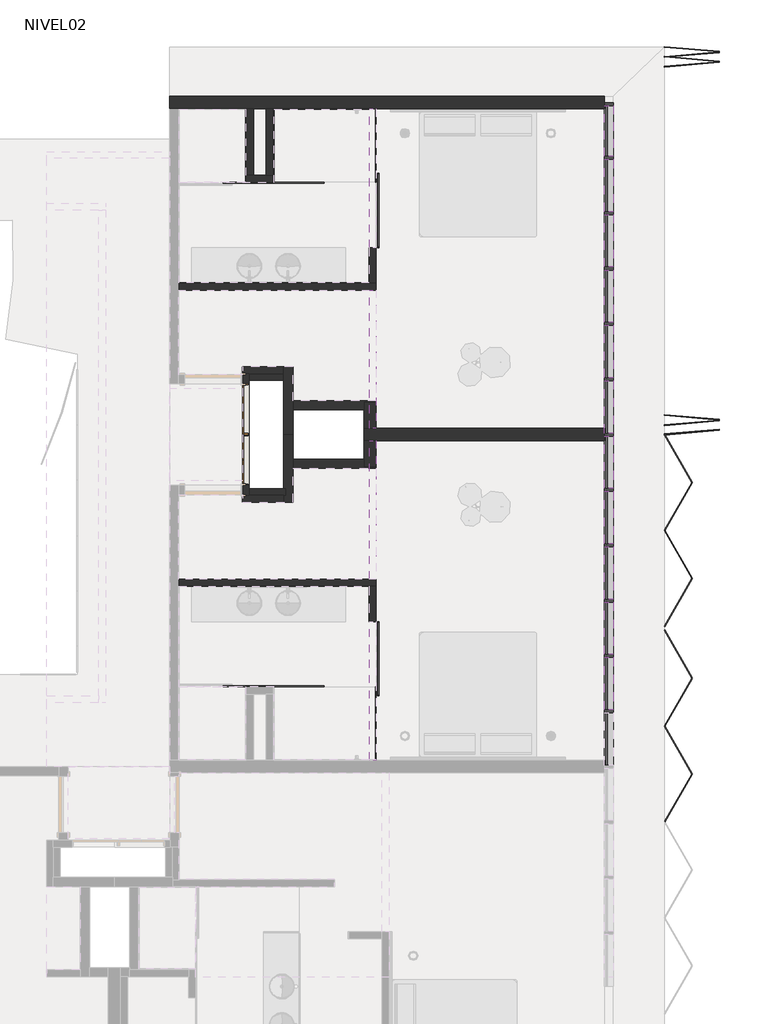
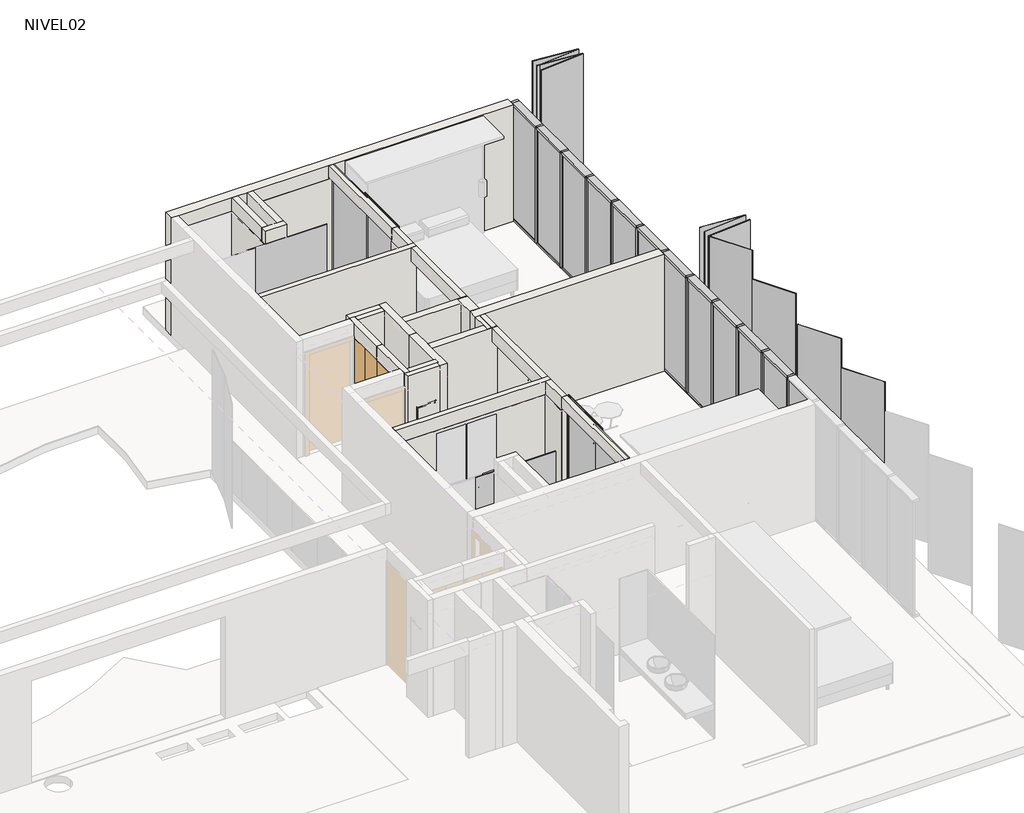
# One storey, part 7 of 9: 35 members, 32 walls, 20 plates, 2 doors.
"""IFC4 building model written with IfcOpenShell, lengths in millimetres."""

from ifc_helpers import new_model, si_unit, frame, origin, place, context, project, spatial, polyline, outline, extrude, faceted_brep, transform, mapped, element, save
from components import puerta_closet_shaft_82_5_x_224cm_10222c01, puerta_closet_shaft_82_5_x_224cm_6ba6ac82, rectangular_mullion_50_x_150mm_8dc60d6a, rectangular_mullion_50_x_150mm_324a6438, rectangular_mullion_50_x_150mm_33c2bde1, rectangular_mullion_50_x_150mm_da4cfd0d, folding_hd_folding_hd_85_1d048bdd, plate_ff72692a, panel_corredera_cr_panel_corredera_8db39db7, panel_corredera_cr_panel_corredera_0b5135b5, system_panel_cr_shower_c0953742, system_panel_cr_shower_402713e2, system_panel_cr_shower_685ec66b, system_panel_cr_shower_d0c7b907, system_panel_glazed_6ccc6dc1, system_panel_glazed_38744f95

model = new_model("IFC4")

# Units and contexts
model_context = context("Model", 3, world=origin())
ifc_project = project(units=[si_unit("LENGTHUNIT", "METRE", prefix="MILLI")], contexts=[model_context])

# Site, building, storey
site = spatial("IfcSite", under=ifc_project)
building = spatial("IfcBuilding", under=site)
storey = spatial("IfcBuildingStorey", under=building, Name="NIVEL02", Elevation=2500.0)

# Doors
placement = place(None, origin())
puerta_closet_shaft_82_5_x_224cm_shape = puerta_closet_shaft_82_5_x_224cm_10222c01(model_context)
element("IfcDoor", 1, ObjectType="PUERTA CLOSET SHAFT : 82.5 x 224cm", at=placement, inside=storey, context=model_context, shape_type="MappedRepresentation", body=[
    mapped(puerta_closet_shaft_82_5_x_224cm_shape, transform((361.4065252, 5862.9454949, 2500.0), x_axis=(0.0, 1.0, 0.0), y_axis=(-1.0, 0.0, 0.0), z_axis=(0.0, 0.0, 1.0))),
])
puerta_closet_shaft_82_5_x_224cm_2_shape = puerta_closet_shaft_82_5_x_224cm_6ba6ac82(model_context)
element("IfcDoor", 2, ObjectType="PUERTA CLOSET SHAFT : 82.5 x 224cm", at=placement, inside=storey, context=model_context, shape_type="MappedRepresentation", body=[
    mapped(puerta_closet_shaft_82_5_x_224cm_2_shape, transform((361.4065252, 4404.8823532, 2500.0), x_axis=(0.0, -1.0, 0.0), y_axis=(1.0, 0.0, 0.0), z_axis=(0.0, 0.0, 1.0))),
])

# Members
rectangular_mullion_50_x_150mm_shape = rectangular_mullion_50_x_150mm_8dc60d6a(model_context)
element("IfcMember", 3, ObjectType="Rectangular Mullion : 50 x 150mm", at=placement, inside=storey, context=model_context, shape_type="MappedRepresentation", body=[
    mapped(rectangular_mullion_50_x_150mm_shape, transform((6266.4065252, 9658.9139237, 5050.0), x_axis=(0.0, 0.0, 1.0), y_axis=(-1.0, 0.0, 0.0), z_axis=(0.0, -1.0, 0.0))),
])
rectangular_mullion_50_x_150mm_2_shape = rectangular_mullion_50_x_150mm_324a6438(model_context)
element("IfcMember", 4, ObjectType="Rectangular Mullion : 50 x 150mm", at=placement, inside=storey, context=model_context, shape_type="MappedRepresentation", body=[
    mapped(rectangular_mullion_50_x_150mm_2_shape, transform((6266.4065252, 8758.9139237, 5050.0), x_axis=(0.0, 0.0, 1.0), y_axis=(-1.0, 0.0, 0.0), z_axis=(0.0, -1.0, 0.0))),
])
element("IfcMember", 5, ObjectType="Rectangular Mullion : 50 x 150mm", at=placement, inside=storey, context=model_context, shape_type="MappedRepresentation", body=[
    mapped(rectangular_mullion_50_x_150mm_2_shape, transform((6266.4065252, 7858.9139237, 5050.0), x_axis=(0.0, 0.0, 1.0), y_axis=(-1.0, 0.0, 0.0), z_axis=(0.0, -1.0, 0.0))),
])
element("IfcMember", 6, ObjectType="Rectangular Mullion : 50 x 150mm", at=placement, inside=storey, context=model_context, shape_type="MappedRepresentation", body=[
    mapped(rectangular_mullion_50_x_150mm_2_shape, transform((6266.4065252, 6958.9139237, 5050.0), x_axis=(0.0, 0.0, 1.0), y_axis=(-1.0, 0.0, 0.0), z_axis=(0.0, -1.0, 0.0))),
])
element("IfcMember", 7, ObjectType="Rectangular Mullion : 50 x 150mm", at=placement, inside=storey, context=model_context, shape_type="MappedRepresentation", body=[
    mapped(rectangular_mullion_50_x_150mm_2_shape, transform((6266.4065252, 6058.9139237, 5050.0), x_axis=(0.0, 0.0, 1.0), y_axis=(-1.0, 0.0, 0.0), z_axis=(0.0, -1.0, 0.0))),
])
element("IfcMember", 8, ObjectType="Rectangular Mullion : 50 x 150mm", at=placement, inside=storey, context=model_context, shape_type="MappedRepresentation", body=[
    mapped(rectangular_mullion_50_x_150mm_2_shape, transform((6266.4065252, 5158.9139237, 5050.0), x_axis=(0.0, 0.0, 1.0), y_axis=(-1.0, 0.0, 0.0), z_axis=(0.0, -1.0, 0.0))),
])
element("IfcMember", 9, ObjectType="Rectangular Mullion : 50 x 150mm", at=placement, inside=storey, context=model_context, shape_type="MappedRepresentation", body=[
    mapped(rectangular_mullion_50_x_150mm_2_shape, transform((6266.4065252, 4258.9139237, 5050.0), x_axis=(0.0, 0.0, 1.0), y_axis=(-1.0, 0.0, 0.0), z_axis=(0.0, -1.0, 0.0))),
])
element("IfcMember", 10, ObjectType="Rectangular Mullion : 50 x 150mm", at=placement, inside=storey, context=model_context, shape_type="MappedRepresentation", body=[
    mapped(rectangular_mullion_50_x_150mm_2_shape, transform((6266.4065252, 3358.9139237, 5050.0), x_axis=(0.0, 0.0, 1.0), y_axis=(-1.0, 0.0, 0.0), z_axis=(0.0, -1.0, 0.0))),
])
element("IfcMember", 11, ObjectType="Rectangular Mullion : 50 x 150mm", at=placement, inside=storey, context=model_context, shape_type="MappedRepresentation", body=[
    mapped(rectangular_mullion_50_x_150mm_2_shape, transform((6266.4065252, 2458.9139237, 5050.0), x_axis=(0.0, 0.0, 1.0), y_axis=(-1.0, 0.0, 0.0), z_axis=(0.0, -1.0, 0.0))),
])
element("IfcMember", 12, ObjectType="Rectangular Mullion : 50 x 150mm", at=placement, inside=storey, context=model_context, shape_type="MappedRepresentation", body=[
    mapped(rectangular_mullion_50_x_150mm_2_shape, transform((6266.4065252, 1558.9139237, 5050.0), x_axis=(0.0, 0.0, 1.0), y_axis=(-1.0, 0.0, 0.0), z_axis=(0.0, -1.0, 0.0))),
])
element("IfcMember", 13, ObjectType="Rectangular Mullion : 50 x 150mm", at=placement, inside=storey, context=model_context, shape_type="MappedRepresentation", body=[
    mapped(rectangular_mullion_50_x_150mm_2_shape, transform((6266.4065252, 658.9139237, 5050.0), x_axis=(0.0, 0.0, 1.0), y_axis=(-1.0, 0.0, 0.0), z_axis=(0.0, -1.0, 0.0))),
])
element("IfcMember", 14, ObjectType="Rectangular Mullion : 50 x 150mm", at=placement, inside=storey, context=model_context, shape_type="MappedRepresentation", body=[
    mapped(rectangular_mullion_50_x_150mm_shape, transform((6266.4065252, 10483.9139241, 2480.0), x_axis=(0.0, 0.0, -1.0), y_axis=(-1.0, 0.0, 0.0), z_axis=(0.0, 1.0, 0.0))),
])
element("IfcMember", 15, ObjectType="Rectangular Mullion : 50 x 150mm", at=placement, inside=storey, context=model_context, shape_type="MappedRepresentation", body=[
    mapped(rectangular_mullion_50_x_150mm_2_shape, transform((6266.4065252, 9608.9139237, 2480.0), x_axis=(0.0, 0.0, -1.0), y_axis=(-1.0, 0.0, 0.0), z_axis=(0.0, 1.0, 0.0))),
])
element("IfcMember", 16, ObjectType="Rectangular Mullion : 50 x 150mm", at=placement, inside=storey, context=model_context, shape_type="MappedRepresentation", body=[
    mapped(rectangular_mullion_50_x_150mm_2_shape, transform((6266.4065252, 8708.9139237, 2480.0), x_axis=(0.0, 0.0, -1.0), y_axis=(-1.0, 0.0, 0.0), z_axis=(0.0, 1.0, 0.0))),
])
element("IfcMember", 17, ObjectType="Rectangular Mullion : 50 x 150mm", at=placement, inside=storey, context=model_context, shape_type="MappedRepresentation", body=[
    mapped(rectangular_mullion_50_x_150mm_2_shape, transform((6266.4065252, 7808.9139237, 2480.0), x_axis=(0.0, 0.0, -1.0), y_axis=(-1.0, 0.0, 0.0), z_axis=(0.0, 1.0, 0.0))),
])
element("IfcMember", 18, ObjectType="Rectangular Mullion : 50 x 150mm", at=placement, inside=storey, context=model_context, shape_type="MappedRepresentation", body=[
    mapped(rectangular_mullion_50_x_150mm_2_shape, transform((6266.4065252, 6908.9139237, 2480.0), x_axis=(0.0, 0.0, -1.0), y_axis=(-1.0, 0.0, 0.0), z_axis=(0.0, 1.0, 0.0))),
])
element("IfcMember", 19, ObjectType="Rectangular Mullion : 50 x 150mm", at=placement, inside=storey, context=model_context, shape_type="MappedRepresentation", body=[
    mapped(rectangular_mullion_50_x_150mm_2_shape, transform((6266.4065252, 6008.9139237, 2480.0), x_axis=(0.0, 0.0, -1.0), y_axis=(-1.0, 0.0, 0.0), z_axis=(0.0, 1.0, 0.0))),
])
element("IfcMember", 20, ObjectType="Rectangular Mullion : 50 x 150mm", at=placement, inside=storey, context=model_context, shape_type="MappedRepresentation", body=[
    mapped(rectangular_mullion_50_x_150mm_2_shape, transform((6266.4065252, 5108.9139237, 2480.0), x_axis=(0.0, 0.0, -1.0), y_axis=(-1.0, 0.0, 0.0), z_axis=(0.0, 1.0, 0.0))),
])
element("IfcMember", 21, ObjectType="Rectangular Mullion : 50 x 150mm", at=placement, inside=storey, context=model_context, shape_type="MappedRepresentation", body=[
    mapped(rectangular_mullion_50_x_150mm_2_shape, transform((6266.4065252, 4208.9139237, 2480.0), x_axis=(0.0, 0.0, -1.0), y_axis=(-1.0, 0.0, 0.0), z_axis=(0.0, 1.0, 0.0))),
])
element("IfcMember", 22, ObjectType="Rectangular Mullion : 50 x 150mm", at=placement, inside=storey, context=model_context, shape_type="MappedRepresentation", body=[
    mapped(rectangular_mullion_50_x_150mm_2_shape, transform((6266.4065252, 3308.9139237, 2480.0), x_axis=(0.0, 0.0, -1.0), y_axis=(-1.0, 0.0, 0.0), z_axis=(0.0, 1.0, 0.0))),
])
element("IfcMember", 23, ObjectType="Rectangular Mullion : 50 x 150mm", at=placement, inside=storey, context=model_context, shape_type="MappedRepresentation", body=[
    mapped(rectangular_mullion_50_x_150mm_2_shape, transform((6266.4065252, 2408.9139237, 2480.0), x_axis=(0.0, 0.0, -1.0), y_axis=(-1.0, 0.0, 0.0), z_axis=(0.0, 1.0, 0.0))),
])
element("IfcMember", 24, ObjectType="Rectangular Mullion : 50 x 150mm", at=placement, inside=storey, context=model_context, shape_type="MappedRepresentation", body=[
    mapped(rectangular_mullion_50_x_150mm_2_shape, transform((6266.4065252, 1508.9139237, 2480.0), x_axis=(0.0, 0.0, -1.0), y_axis=(-1.0, 0.0, 0.0), z_axis=(0.0, 1.0, 0.0))),
])
element("IfcMember", 25, ObjectType="Rectangular Mullion : 50 x 150mm", at=placement, inside=storey, context=model_context, shape_type="MappedRepresentation", body=[
    mapped(rectangular_mullion_50_x_150mm_2_shape, transform((6266.4065252, 608.9139237, 2480.0), x_axis=(0.0, 0.0, -1.0), y_axis=(-1.0, 0.0, 0.0), z_axis=(0.0, 1.0, 0.0))),
])
rectangular_mullion_50_x_150mm_3_shape = rectangular_mullion_50_x_150mm_33c2bde1(model_context)
element("IfcMember", 26, ObjectType="Rectangular Mullion : 50 x 150mm", at=placement, inside=storey, context=model_context, shape_type="MappedRepresentation", body=[
    mapped(rectangular_mullion_50_x_150mm_3_shape, transform((6266.4065252, 9633.9139237, 2480.0), x_axis=(0.0, -1.0, 0.0), y_axis=(-1.0, 0.0, 0.0), z_axis=(0.0, 0.0, -1.0))),
])
element("IfcMember", 27, ObjectType="Rectangular Mullion : 50 x 150mm", at=placement, inside=storey, context=model_context, shape_type="MappedRepresentation", body=[
    mapped(rectangular_mullion_50_x_150mm_3_shape, transform((6266.4065252, 8733.9139237, 2480.0), x_axis=(0.0, -1.0, 0.0), y_axis=(-1.0, 0.0, 0.0), z_axis=(0.0, 0.0, -1.0))),
])
element("IfcMember", 28, ObjectType="Rectangular Mullion : 50 x 150mm", at=placement, inside=storey, context=model_context, shape_type="MappedRepresentation", body=[
    mapped(rectangular_mullion_50_x_150mm_3_shape, transform((6266.4065252, 7833.9139237, 2480.0), x_axis=(0.0, -1.0, 0.0), y_axis=(-1.0, 0.0, 0.0), z_axis=(0.0, 0.0, -1.0))),
])
element("IfcMember", 29, ObjectType="Rectangular Mullion : 50 x 150mm", at=placement, inside=storey, context=model_context, shape_type="MappedRepresentation", body=[
    mapped(rectangular_mullion_50_x_150mm_3_shape, transform((6266.4065252, 6933.9139237, 2480.0), x_axis=(0.0, -1.0, 0.0), y_axis=(-1.0, 0.0, 0.0), z_axis=(0.0, 0.0, -1.0))),
])
element("IfcMember", 30, ObjectType="Rectangular Mullion : 50 x 150mm", at=placement, inside=storey, context=model_context, shape_type="MappedRepresentation", body=[
    mapped(rectangular_mullion_50_x_150mm_3_shape, transform((6266.4065252, 6033.9139237, 2480.0), x_axis=(0.0, -1.0, 0.0), y_axis=(-1.0, 0.0, 0.0), z_axis=(0.0, 0.0, -1.0))),
])
element("IfcMember", 31, ObjectType="Rectangular Mullion : 50 x 150mm", at=placement, inside=storey, context=model_context, shape_type="MappedRepresentation", body=[
    mapped(rectangular_mullion_50_x_150mm_3_shape, transform((6266.4065252, 5133.9139237, 2480.0), x_axis=(0.0, -1.0, 0.0), y_axis=(-1.0, 0.0, 0.0), z_axis=(0.0, 0.0, -1.0))),
])
element("IfcMember", 32, ObjectType="Rectangular Mullion : 50 x 150mm", at=placement, inside=storey, context=model_context, shape_type="MappedRepresentation", body=[
    mapped(rectangular_mullion_50_x_150mm_3_shape, transform((6266.4065252, 4233.9139237, 2480.0), x_axis=(0.0, -1.0, 0.0), y_axis=(-1.0, 0.0, 0.0), z_axis=(0.0, 0.0, -1.0))),
])
element("IfcMember", 33, ObjectType="Rectangular Mullion : 50 x 150mm", at=placement, inside=storey, context=model_context, shape_type="MappedRepresentation", body=[
    mapped(rectangular_mullion_50_x_150mm_3_shape, transform((6266.4065252, 3333.9139237, 2480.0), x_axis=(0.0, -1.0, 0.0), y_axis=(-1.0, 0.0, 0.0), z_axis=(0.0, 0.0, -1.0))),
])
element("IfcMember", 34, ObjectType="Rectangular Mullion : 50 x 150mm", at=placement, inside=storey, context=model_context, shape_type="MappedRepresentation", body=[
    mapped(rectangular_mullion_50_x_150mm_3_shape, transform((6266.4065252, 2433.9139237, 2480.0), x_axis=(0.0, -1.0, 0.0), y_axis=(-1.0, 0.0, 0.0), z_axis=(0.0, 0.0, -1.0))),
])
element("IfcMember", 35, ObjectType="Rectangular Mullion : 50 x 150mm", at=placement, inside=storey, context=model_context, shape_type="MappedRepresentation", body=[
    mapped(rectangular_mullion_50_x_150mm_3_shape, transform((6266.4065252, 1533.9139237, 2480.0), x_axis=(0.0, -1.0, 0.0), y_axis=(-1.0, 0.0, 0.0), z_axis=(0.0, 0.0, -1.0))),
])
element("IfcMember", 36, ObjectType="Rectangular Mullion : 50 x 150mm", at=placement, inside=storey, context=model_context, shape_type="MappedRepresentation", body=[
    mapped(rectangular_mullion_50_x_150mm_3_shape, transform((6266.4065252, 633.9139237, 2480.0), x_axis=(0.0, -1.0, 0.0), y_axis=(-1.0, 0.0, 0.0), z_axis=(0.0, 0.0, -1.0))),
])
rectangular_mullion_50_x_150mm_4_shape = rectangular_mullion_50_x_150mm_da4cfd0d(model_context)
element("IfcMember", 37, ObjectType="Rectangular Mullion : 50 x 150mm", at=placement, inside=storey, context=model_context, shape_type="MappedRepresentation", body=[
    mapped(rectangular_mullion_50_x_150mm_4_shape, transform((6266.4065252, 10533.9139241, 5050.0), x_axis=(0.0, 1.0, 0.0), y_axis=(-1.0, 0.0, 0.0), z_axis=(0.0, 0.0, 1.0))),
])

# Plates
folding_hd_folding_hd_85_shape = folding_hd_folding_hd_85_1d048bdd(model_context)
element("IfcPlate", 38, ObjectType="FOLDING HD : FOLDING HD 85", at=placement, inside=storey, context=model_context, shape_type="MappedRepresentation", body=[
    mapped(folding_hd_folding_hd_85_shape, transform((7166.4065252, 8283.9139241, 2480.0), x_axis=(0.0, -1.0, 0.0), y_axis=(1.0, 0.0, 0.0), z_axis=(0.0, 0.0, 1.0))),
])
plate_shape = plate_ff72692a(model_context)
element("IfcPlate", 39, ObjectType="FOLDING HD : FOLDING HD-90_30\"", at=placement, inside=storey, context=model_context, shape_type="MappedRepresentation", body=[
    mapped(plate_shape, transform((7166.4065252, 1983.9139241, 2480.0), x_axis=(0.0, -1.0, 0.0), y_axis=(1.0, 0.0, 0.0), z_axis=(0.0, 0.0, 1.0))),
])
panel_corredera_cr_panel_corredera_shape = panel_corredera_cr_panel_corredera_8db39db7(model_context)
element("IfcPlate", 40, ObjectType="PANEL CORREDERA : CR_PANEL CORREDERA", at=placement, inside=storey, context=model_context, shape_type="MappedRepresentation", body=[
    mapped(panel_corredera_cr_panel_corredera_shape, transform((2481.4065252, 1563.9139241, 2500.0), x_axis=(0.0, -1.0, 0.0), y_axis=(1.0, 0.0, 0.0), z_axis=(0.0, 0.0, 1.0))),
])
panel_corredera_cr_panel_corredera_2_shape = panel_corredera_cr_panel_corredera_0b5135b5(model_context)
element("IfcPlate", 41, ObjectType="PANEL CORREDERA : CR_PANEL CORREDERA", at=placement, inside=storey, context=model_context, shape_type="MappedRepresentation", body=[
    mapped(panel_corredera_cr_panel_corredera_2_shape, transform((2481.4065252, 8703.9139241, 2500.0), x_axis=(0.0, 1.0, 0.0), y_axis=(-1.0, 0.0, 0.0), z_axis=(0.0, 0.0, 1.0))),
])
system_panel_cr_shower_shape = system_panel_cr_shower_c0953742(model_context)
element("IfcPlate", 42, ObjectType="System Panel : CR-SHOWER", at=placement, inside=storey, context=model_context, shape_type="MappedRepresentation", body=[
    mapped(system_panel_cr_shower_shape, transform((811.7398585, 9233.9139241, 2500.0), x_axis=(-1.0, 0.0, 0.0), y_axis=(0.0, -1.0, 0.0), z_axis=(0.0, 0.0, 1.0))),
])
system_panel_cr_shower_2_shape = system_panel_cr_shower_402713e2(model_context)
element("IfcPlate", 43, ObjectType="System Panel : CR-SHOWER", at=placement, inside=storey, context=model_context, shape_type="MappedRepresentation", body=[
    mapped(system_panel_cr_shower_2_shape, transform((811.7398585, 1033.9139241, 2500.0), x_axis=(-1.0, 0.0, 0.0), y_axis=(0.0, -1.0, 0.0), z_axis=(0.0, 0.0, 1.0))),
])
system_panel_cr_shower_3_shape = system_panel_cr_shower_685ec66b(model_context)
element("IfcPlate", 44, ObjectType="System Panel : CR-SHOWER", at=placement, inside=storey, context=model_context, shape_type="MappedRepresentation", body=[
    mapped(system_panel_cr_shower_3_shape, transform((2481.4065252, 433.9139241, 2500.0), x_axis=(0.0, -1.0, 0.0), y_axis=(1.0, 0.0, 0.0), z_axis=(0.0, 0.0, 1.0))),
])
system_panel_cr_shower_4_shape = system_panel_cr_shower_d0c7b907(model_context)
element("IfcPlate", 45, ObjectType="System Panel : CR-SHOWER", at=placement, inside=storey, context=model_context, shape_type="MappedRepresentation", body=[
    mapped(system_panel_cr_shower_4_shape, transform((2481.4065252, 9833.9139241, 2500.0), x_axis=(0.0, 1.0, 0.0), y_axis=(-1.0, 0.0, 0.0), z_axis=(0.0, 0.0, 1.0))),
])
system_panel_glazed_shape = system_panel_glazed_6ccc6dc1(model_context)
element("IfcPlate", 46, ObjectType="System Panel : Glazed", at=placement, inside=storey, context=model_context, shape_type="MappedRepresentation", body=[
    mapped(system_panel_glazed_shape, transform((6266.4065252, 9183.9139237, 2530.0), x_axis=(0.0, -1.0, 0.0), y_axis=(1.0, 0.0, 0.0), z_axis=(0.0, 0.0, 1.0))),
])
element("IfcPlate", 47, ObjectType="System Panel : Glazed", at=placement, inside=storey, context=model_context, shape_type="MappedRepresentation", body=[
    mapped(system_panel_glazed_shape, transform((6266.4065252, 8283.9139237, 2530.0), x_axis=(0.0, -1.0, 0.0), y_axis=(1.0, 0.0, 0.0), z_axis=(0.0, 0.0, 1.0))),
])
element("IfcPlate", 48, ObjectType="System Panel : Glazed", at=placement, inside=storey, context=model_context, shape_type="MappedRepresentation", body=[
    mapped(system_panel_glazed_shape, transform((6266.4065252, 7383.9139237, 2530.0), x_axis=(0.0, -1.0, 0.0), y_axis=(1.0, 0.0, 0.0), z_axis=(0.0, 0.0, 1.0))),
])
element("IfcPlate", 49, ObjectType="System Panel : Glazed", at=placement, inside=storey, context=model_context, shape_type="MappedRepresentation", body=[
    mapped(system_panel_glazed_shape, transform((6266.4065252, 6483.9139237, 2530.0), x_axis=(0.0, -1.0, 0.0), y_axis=(1.0, 0.0, 0.0), z_axis=(0.0, 0.0, 1.0))),
])
element("IfcPlate", 50, ObjectType="System Panel : Glazed", at=placement, inside=storey, context=model_context, shape_type="MappedRepresentation", body=[
    mapped(system_panel_glazed_shape, transform((6266.4065252, 5583.9139237, 2530.0), x_axis=(0.0, -1.0, 0.0), y_axis=(1.0, 0.0, 0.0), z_axis=(0.0, 0.0, 1.0))),
])
element("IfcPlate", 51, ObjectType="System Panel : Glazed", at=placement, inside=storey, context=model_context, shape_type="MappedRepresentation", body=[
    mapped(system_panel_glazed_shape, transform((6266.4065252, 4683.9139237, 2530.0), x_axis=(0.0, -1.0, 0.0), y_axis=(1.0, 0.0, 0.0), z_axis=(0.0, 0.0, 1.0))),
])
element("IfcPlate", 52, ObjectType="System Panel : Glazed", at=placement, inside=storey, context=model_context, shape_type="MappedRepresentation", body=[
    mapped(system_panel_glazed_shape, transform((6266.4065252, 3783.9139237, 2530.0), x_axis=(0.0, -1.0, 0.0), y_axis=(1.0, 0.0, 0.0), z_axis=(0.0, 0.0, 1.0))),
])
element("IfcPlate", 53, ObjectType="System Panel : Glazed", at=placement, inside=storey, context=model_context, shape_type="MappedRepresentation", body=[
    mapped(system_panel_glazed_shape, transform((6266.4065252, 2883.9139237, 2530.0), x_axis=(0.0, -1.0, 0.0), y_axis=(1.0, 0.0, 0.0), z_axis=(0.0, 0.0, 1.0))),
])
element("IfcPlate", 54, ObjectType="System Panel : Glazed", at=placement, inside=storey, context=model_context, shape_type="MappedRepresentation", body=[
    mapped(system_panel_glazed_shape, transform((6266.4065252, 1983.9139237, 2530.0), x_axis=(0.0, -1.0, 0.0), y_axis=(1.0, 0.0, 0.0), z_axis=(0.0, 0.0, 1.0))),
])
element("IfcPlate", 55, ObjectType="System Panel : Glazed", at=placement, inside=storey, context=model_context, shape_type="MappedRepresentation", body=[
    mapped(system_panel_glazed_shape, transform((6266.4065252, 1083.9139237, 2530.0), x_axis=(0.0, -1.0, 0.0), y_axis=(1.0, 0.0, 0.0), z_axis=(0.0, 0.0, 1.0))),
])
element("IfcPlate", 56, ObjectType="System Panel : Glazed", at=placement, inside=storey, context=model_context, shape_type="MappedRepresentation", body=[
    mapped(system_panel_glazed_shape, transform((6266.4065252, 183.9139237, 2530.0), x_axis=(0.0, -1.0, 0.0), y_axis=(1.0, 0.0, 0.0), z_axis=(0.0, 0.0, 1.0))),
])
system_panel_glazed_2_shape = system_panel_glazed_38744f95(model_context)
element("IfcPlate", 57, ObjectType="System Panel : Glazed", at=placement, inside=storey, context=model_context, shape_type="MappedRepresentation", body=[
    mapped(system_panel_glazed_2_shape, transform((6266.4065252, 10071.4139239, 2530.0), x_axis=(0.0, -1.0, 0.0), y_axis=(1.0, 0.0, 0.0), z_axis=(0.0, 0.0, 1.0))),
])

# Walls
element("IfcWall", 58, ObjectType="SCV.TI.A.110.090.143.47.1", at=placement, inside=storey, context=model_context, shape_type="Brep", body=[
    faceted_brep([(306.4065252, 6123.9139241, 2480.0), (306.4065252, 6108.9139241, 2480.0), (306.4065252, 5958.9139241, 2480.0), (306.4065252, 5128.3504322, 2480.0), (306.4065252, 5128.3504322, 2500.0), (306.4065252, 5958.9139241, 2500.0), (306.4065252, 5958.9139241, 4740.0), (306.4065252, 5128.3504322, 4740.0), (306.4065252, 5128.3504322, 5050.0), (306.4065252, 5958.9139241, 5050.0), (306.4065252, 6108.9139241, 5050.0), (306.4065252, 6123.9139241, 5050.0), (416.4065252, 5128.3504322, 2480.0), (416.4065252, 6013.9139241, 2480.0), (416.4065252, 6123.9139241, 2480.0), (416.4065252, 6123.9139241, 5050.0), (416.4065252, 6013.9139241, 5050.0), (416.4065252, 5128.3504322, 5050.0), (416.4065252, 5128.3504322, 4740.0), (416.4065252, 5958.9139241, 4740.0), (416.4065252, 5958.9139241, 2500.0), (416.4065252, 5128.3504322, 2500.0)], [[[0, 1, 2, 3, 4, 5, 6, 7, 8, 9, 10, 11]], [[12, 13, 14, 15, 16, 17, 18, 19, 20, 21]], [[3, 2, 1, 0, 14, 13, 12]], [[17, 8, 7, 18]], [[3, 12, 21, 4]], [[11, 10, 9, 8, 17, 16, 15]], [[6, 19, 18, 7]], [[20, 5, 4, 21]], [[5, 20, 19, 6]], [[0, 11, 15, 14]]]),
])
element("IfcWall", 59, ObjectType="SCV.TI.A.110.090.143.47.1", at=placement, inside=storey, context=model_context, shape_type="Brep", body=[
    faceted_brep([(-733.5934748, 7483.9139241, 2480.0), (2481.4065252, 7483.9139241, 2480.0), (2481.4065252, 7483.9139241, 4750.0), (2481.4065252, 7483.9139241, 5050.0), (2371.4065252, 7483.9139241, 5050.0), (-733.5934748, 7483.9139241, 5050.0), (-733.5934748, 7593.9139241, 2480.0), (-733.5934748, 7593.9139241, 5050.0), (2371.4065252, 7593.9139241, 5050.0), (2481.4065252, 7593.9139241, 5050.0), (2481.4065252, 7593.9139241, 2480.0), (2371.4065252, 7593.9139241, 2480.0)], [[[0, 1, 2, 3, 4, 5]], [[6, 7, 8, 9, 10, 11]], [[1, 0, 6, 11, 10]], [[5, 4, 3, 9, 8, 7]], [[1, 10, 9, 3, 2]], [[0, 5, 7, 6]]]),
])
element("IfcWall", 60, ObjectType="SCV.TI.A.110.090.143.47.1", at=placement, inside=storey, context=model_context, shape_type="Brep", body=[
    faceted_brep([(306.4065252, 6123.9139241, 2480.0), (416.4065252, 6123.9139241, 2480.0), (976.4065252, 6123.9139241, 2480.0), (976.4065252, 6123.9139241, 5050.0), (416.4065252, 6123.9139241, 5050.0), (306.4065252, 6123.9139241, 5050.0), (306.4065252, 6233.9139241, 2480.0), (306.4065252, 6233.9139241, 5050.0), (976.4065252, 6233.9139241, 5050.0), (976.4065252, 6233.9139241, 2480.0)], [[[0, 1, 2, 3, 4, 5]], [[6, 7, 8, 9]], [[2, 1, 0, 6, 9]], [[5, 4, 3, 8, 7]], [[0, 5, 7, 6]], [[3, 2, 9, 8]]]),
])
element("IfcWall", 61, ObjectType="SCV.TI.A.120.120.122.46.2", at=placement, inside=storey, context=model_context, shape_type="SweptSolid", body=[
    extrude(outline(polyline([(686.4065252, 9353.9139241), (686.4065252, 10433.9139241), (806.4065252, 10433.9139241), (806.4065252, 9353.9139241), (686.4065252, 9353.9139241)])), frame((0.0, 0.0, 2480.0), z_axis=(0.0, 0.0, 1.0), x_axis=(1.0, 0.0, 0.0)), (0.0, 0.0, 1.0), 2570.0),
])
element("IfcWall", 62, ObjectType="SCV.TI.A.120.120.122.46.2", at=placement, inside=storey, context=model_context, shape_type="Brep", body=[
    faceted_brep([(806.4065252, 9353.9139241, 2480.0), (686.4065252, 9353.9139241, 2480.0), (486.4065252, 9353.9139241, 2480.0), (366.4065252, 9353.9139241, 2480.0), (366.4065252, 9353.9139241, 5050.0), (486.4065252, 9353.9139241, 5050.0), (686.4065252, 9353.9139241, 5050.0), (806.4065252, 9353.9139241, 5050.0), (806.4065252, 9233.9139241, 2480.0), (806.4065252, 9233.9139241, 5050.0), (366.4065252, 9233.9139241, 5050.0), (366.4065252, 9233.9139241, 2480.0)], [[[0, 1, 2, 3, 4, 5, 6, 7]], [[8, 9, 10, 11]], [[3, 2, 1, 0, 8, 11]], [[7, 6, 5, 4, 10, 9]], [[4, 3, 11, 10]], [[0, 7, 9, 8]]]),
])
element("IfcWall", 63, ObjectType="SCV.TI.A.120.120.122.46.2", at=placement, inside=storey, context=model_context, shape_type="SweptSolid", body=[
    extrude(outline(polyline([(486.4065252, 10433.9139241), (486.4065252, 9353.9139241), (366.4065252, 9353.9139241), (366.4065252, 10433.9139241), (486.4065252, 10433.9139241)])), frame((0.0, 0.0, 2480.0), z_axis=(0.0, 0.0, 1.0), x_axis=(1.0, 0.0, 0.0)), (0.0, 0.0, 1.0), 2570.0),
])
element("IfcWall", 64, ObjectType="SCV.TI.A.110.090.143.47.1", at=placement, inside=storey, context=model_context, shape_type="Brep", body=[
    faceted_brep([(2481.4065252, 7593.9139241, 5050.0), (2481.4065252, 7593.9139241, 2480.0), (2481.4065252, 8173.9139241, 2480.0), (2481.4065252, 8173.9139241, 5050.0), (2371.4065252, 7593.9139241, 2480.0), (2371.4065252, 7593.9139241, 5050.0), (2371.4065252, 8173.9139241, 5050.0), (2371.4065252, 8173.9139241, 4805.0), (2371.4065252, 8173.9139241, 2480.0)], [[[0, 1, 2, 3]], [[4, 5, 6, 7, 8]], [[2, 1, 4, 8]], [[3, 2, 8, 7, 6]], [[0, 3, 6, 5]], [[0, 5, 4, 1]]]),
])
element("IfcWall", 65, ObjectType="REV-PORCELANATO_60*60", at=placement, inside=storey, context=model_context, shape_type="Brep", body=[
    faceted_brep([(2371.4065252, 7593.9139241, 2520.0), (2371.4065252, 8173.9139241, 2520.0), (2371.4065252, 8173.9139241, 4760.0), (2371.4065252, 7593.9139241, 4760.0), (2361.4065252, 7593.9139241, 2520.0), (2361.4065252, 7593.9139241, 4760.0), (2361.4065252, 7603.9139241, 4760.0), (2361.4065252, 8173.9139241, 4760.0), (2361.4065252, 8173.9139241, 2520.0), (2361.4065252, 7603.9139241, 2520.0)], [[[0, 1, 2, 3]], [[4, 5, 6, 7, 8, 9]], [[1, 0, 4, 9, 8]], [[2, 1, 8, 7]], [[3, 2, 7, 6, 5]], [[0, 3, 5, 4]]]),
])
element("IfcWall", 66, ObjectType="REV-PORCELANATO_60*60", at=placement, inside=storey, context=model_context, shape_type="Brep", body=[
    faceted_brep([(-733.5934748, 7593.9139241, 2520.0), (2361.4065252, 7593.9139241, 2520.0), (2361.4065252, 7593.9139241, 4760.0), (-733.5934748, 7593.9139241, 4760.0), (-733.5934748, 7603.9139241, 2520.0), (-733.5934748, 7603.9139241, 4760.0), (-723.5934748, 7603.9139241, 4760.0), (2361.4065252, 7603.9139241, 4760.0), (2361.4065252, 7603.9139241, 2520.0), (-723.5934748, 7603.9139241, 2520.0)], [[[0, 1, 2, 3]], [[4, 5, 6, 7, 8, 9]], [[1, 0, 4, 9, 8]], [[3, 2, 7, 6, 5]], [[0, 3, 5, 4]], [[2, 1, 8, 7]]]),
])
element("IfcWall", 67, ObjectType="REV-PORCELANATO_60*60", at=placement, inside=storey, context=model_context, shape_type="SweptSolid", body=[
    extrude(outline(polyline([(366.4065252, 10423.9139241), (366.4065252, 9233.9139241), (356.4065252, 9233.9139241), (356.4065252, 10423.9139241), (366.4065252, 10423.9139241)])), frame((0.0, 0.0, 2520.0), z_axis=(0.0, 0.0, 1.0), x_axis=(1.0, 0.0, 0.0)), (0.0, 0.0, 1.0), 2240.0),
])
element("IfcWall", 68, ObjectType="REV-PORCELANATO_60*60", at=placement, inside=storey, context=model_context, shape_type="Brep", body=[
    faceted_brep([(816.4065252, 9233.9139241, 2500.0), (816.4065252, 10423.9139241, 2500.0), (816.4065252, 10433.9139241, 2500.0), (816.4065252, 10433.9139241, 4760.0), (816.4065252, 10423.9139241, 4760.0), (816.4065252, 9233.9139241, 4760.0), (806.4065252, 9233.9139241, 2500.0), (806.4065252, 9233.9139241, 4760.0), (806.4065252, 10433.9139241, 4760.0), (806.4065252, 10433.9139241, 2500.0)], [[[0, 1, 2, 3, 4, 5]], [[6, 7, 8, 9]], [[2, 1, 0, 6, 9]], [[5, 4, 3, 8, 7]], [[0, 5, 7, 6]], [[3, 2, 9, 8]]]),
])
element("IfcWall", 69, ObjectType="REV-PORCELANATO_60*60", at=placement, inside=storey, context=model_context, shape_type="SweptSolid", body=[
    extrude(outline(polyline([(2426.4065252, 10423.9139241), (816.4065252, 10423.9139241), (816.4065252, 10433.9139241), (2426.4065252, 10433.9139241), (2426.4065252, 10423.9139241)])), frame((0.0, 0.0, 2500.0), z_axis=(0.0, 0.0, 1.0), x_axis=(1.0, 0.0, 0.0)), (0.0, 0.0, 1.0), 2260.0),
])
element("IfcWall", 70, ObjectType="SCV.TI.A.110.090.143.47.1 2", at=placement, inside=storey, context=model_context, shape_type="SweptSolid", body=[
    extrude(outline(polyline([(8173.9139241, 5050.0), (10428.9139241, 5050.0), (10428.9139241, 4750.0), (10423.9139241, 4750.0), (10423.9139241, 4805.0), (8173.9139241, 4805.0), (8173.9139241, 5050.0)])), frame((2371.4065252, 0.0, 0.0), z_axis=(1.0, 0.0, 0.0), x_axis=(0.0, 1.0, 0.0)), (0.0, 0.0, 1.0), 110.0),
])
element("IfcWall", 71, ObjectType="SCV.TI.A.110.090.143.47.1 2", at=placement, inside=storey, context=model_context, shape_type="SweptSolid", body=[
    extrude(outline(polyline([(2371.4065252, 5233.9139241), (2371.4065252, 7483.9139241), (2481.4065252, 7483.9139241), (2481.4065252, 5233.9139241), (2371.4065252, 5233.9139241)])), frame((0.0, 0.0, 4750.0), z_axis=(0.0, 0.0, 1.0), x_axis=(1.0, 0.0, 0.0)), (0.0, 0.0, 1.0), 300.0),
])
element("IfcWall", 72, ObjectType="SCV.TI.A.110.090.143.47.1", at=placement, inside=storey, context=model_context, shape_type="Brep", body=[
    faceted_brep([(416.4065252, 6013.9139241, 2480.0), (1006.4065252, 6013.9139241, 2480.0), (1006.4065252, 6013.9139241, 5050.0), (416.4065252, 6013.9139241, 5050.0), (416.4065252, 6123.9139241, 2480.0), (416.4065252, 6123.9139241, 5050.0), (976.4065252, 6123.9139241, 5050.0), (1006.4065252, 6123.9139241, 5050.0), (1006.4065252, 6123.9139241, 2480.0), (976.4065252, 6123.9139241, 2480.0)], [[[0, 1, 2, 3]], [[4, 5, 6, 7, 8, 9]], [[1, 0, 4, 9, 8]], [[2, 1, 8, 7]], [[3, 2, 7, 6, 5]], [[0, 3, 5, 4]]]),
])
element("IfcWall", 73, ObjectType="SCV.TI.A.150.120.212.47.1", at=placement, inside=storey, context=model_context, shape_type="Brep", body=[
    faceted_brep([(1126.4065252, 5133.9139241, 2480.0), (1126.4065252, 5533.9139241, 2480.0), (1126.4065252, 5683.9139241, 2480.0), (1126.4065252, 6233.9139241, 2480.0), (1126.4065252, 6233.9139241, 5050.0), (1126.4065252, 5683.9139241, 5050.0), (1126.4065252, 5533.9139241, 5050.0), (1126.4065252, 5133.9139241, 5050.0), (976.4065252, 5133.9139241, 2480.0), (976.4065252, 5133.9139241, 5050.0), (976.4065252, 6123.9139241, 5050.0), (976.4065252, 6233.9139241, 5050.0), (976.4065252, 6233.9139241, 2480.0), (976.4065252, 6123.9139241, 2480.0)], [[[0, 1, 2, 3, 4, 5, 6, 7]], [[8, 9, 10, 11, 12, 13]], [[3, 2, 1, 0, 8, 13, 12]], [[7, 6, 5, 4, 11, 10, 9]], [[0, 7, 9, 8]], [[4, 3, 12, 11]]]),
])
element("IfcWall", 74, ObjectType="SCV.TI.A.150.120.212.47.1", at=placement, inside=storey, context=model_context, shape_type="SweptSolid", body=[
    extrude(outline(polyline([(1126.4065252, 5683.9139241), (2481.4065252, 5683.9139241), (2481.4065252, 5668.9139241), (2281.4065252, 5668.9139241), (2281.4065252, 5533.9139241), (1126.4065252, 5533.9139241), (1126.4065252, 5683.9139241)])), frame((0.0, 0.0, 2480.0), z_axis=(0.0, 0.0, 1.0), x_axis=(1.0, 0.0, 0.0)), (0.0, 0.0, 1.0), 2570.0),
])
element("IfcWall", 75, ObjectType="SCV.TI.A.110.090.143.47.1", at=placement, inside=storey, context=model_context, shape_type="Brep", body=[
    faceted_brep([(416.4065252, 4143.9139241, 2480.0), (416.4065252, 4253.9139241, 2480.0), (416.4065252, 5128.3504322, 2480.0), (416.4065252, 5128.3504322, 2500.0), (416.4065252, 4308.9139241, 2500.0), (416.4065252, 4308.9139241, 4740.0), (416.4065252, 5128.3504322, 4740.0), (416.4065252, 5128.3504322, 5050.0), (416.4065252, 4253.9139241, 5050.0), (416.4065252, 4143.9139241, 5050.0), (306.4065252, 5128.3504322, 2480.0), (306.4065252, 4308.9139241, 2480.0), (306.4065252, 4158.9139241, 2480.0), (306.4065252, 4143.9139241, 2480.0), (306.4065252, 4143.9139241, 5050.0), (306.4065252, 4158.9139241, 5050.0), (306.4065252, 4308.9139241, 5050.0), (306.4065252, 5128.3504322, 5050.0), (306.4065252, 5128.3504322, 4740.0), (306.4065252, 4308.9139241, 4740.0), (306.4065252, 4308.9139241, 2500.0), (306.4065252, 5128.3504322, 2500.0)], [[[0, 1, 2, 3, 4, 5, 6, 7, 8, 9]], [[10, 11, 12, 13, 14, 15, 16, 17, 18, 19, 20, 21]], [[2, 1, 0, 13, 12, 11, 10]], [[17, 7, 6, 18]], [[2, 10, 21, 3]], [[9, 8, 7, 17, 16, 15, 14]], [[5, 19, 18, 6]], [[20, 4, 3, 21]], [[19, 5, 4, 20]], [[0, 9, 14, 13]]]),
])
element("IfcWall", 76, ObjectType="SCV.TI.A.110.090.143.47.1", at=placement, inside=storey, context=model_context, shape_type="Brep", body=[
    faceted_brep([(-733.5934748, 2673.9139241, 2480.0), (2371.4065252, 2673.9139241, 2480.0), (2481.4065252, 2673.9139241, 2480.0), (2481.4065252, 2673.9139241, 5050.0), (2371.4065252, 2673.9139241, 5050.0), (-733.5934748, 2673.9139241, 5050.0), (-733.5934748, 2783.9139241, 2480.0), (-733.5934748, 2783.9139241, 5050.0), (2371.4065252, 2783.9139241, 5050.0), (2481.4065252, 2783.9139241, 5050.0), (2481.4065252, 2783.9139241, 4750.0), (2481.4065252, 2783.9139241, 2480.0)], [[[0, 1, 2, 3, 4, 5]], [[6, 7, 8, 9, 10, 11]], [[2, 1, 0, 6, 11]], [[5, 4, 3, 9, 8, 7]], [[2, 11, 10, 9, 3]], [[0, 5, 7, 6]]]),
])
element("IfcWall", 77, ObjectType="SCV.TI.A.110.090.143.47.1", at=placement, inside=storey, context=model_context, shape_type="Brep", body=[
    faceted_brep([(306.4065252, 4033.9139241, 2480.0), (976.4065252, 4033.9139241, 2480.0), (976.4065252, 4033.9139241, 5050.0), (306.4065252, 4033.9139241, 5050.0), (306.4065252, 4143.9139241, 2480.0), (306.4065252, 4143.9139241, 5050.0), (416.4065252, 4143.9139241, 5050.0), (976.4065252, 4143.9139241, 5050.0), (976.4065252, 4143.9139241, 2480.0), (416.4065252, 4143.9139241, 2480.0)], [[[0, 1, 2, 3]], [[4, 5, 6, 7, 8, 9]], [[1, 0, 4, 9, 8]], [[3, 2, 7, 6, 5]], [[0, 3, 5, 4]], [[2, 1, 8, 7]]]),
])
element("IfcWall", 78, ObjectType="SCV.TI.A.110.090.143.47.1", at=placement, inside=storey, context=model_context, shape_type="Brep", body=[
    faceted_brep([(2371.4065252, 2673.9139241, 5050.0), (2371.4065252, 2673.9139241, 2480.0), (2371.4065252, 2093.9139241, 2480.0), (2371.4065252, 2093.9139241, 4805.0), (2371.4065252, 2093.9139241, 5050.0), (2481.4065252, 2673.9139241, 2480.0), (2481.4065252, 2673.9139241, 5050.0), (2481.4065252, 2093.9139241, 5050.0), (2481.4065252, 2093.9139241, 2480.0)], [[[0, 1, 2, 3, 4]], [[5, 6, 7, 8]], [[2, 1, 5, 8]], [[4, 3, 2, 8, 7]], [[0, 4, 7, 6]], [[0, 6, 5, 1]]]),
])
element("IfcWall", 79, ObjectType="REV-PORCELANATO_60*60", at=placement, inside=storey, context=model_context, shape_type="Brep", body=[
    faceted_brep([(2361.4065252, 2673.9139241, 2520.0), (2361.4065252, 2663.9139241, 2520.0), (2361.4065252, 2093.9139241, 2520.0), (2361.4065252, 2093.9139241, 4760.0), (2361.4065252, 2663.9139241, 4760.0), (2361.4065252, 2673.9139241, 4760.0), (2371.4065252, 2673.9139241, 2520.0), (2371.4065252, 2673.9139241, 4760.0), (2371.4065252, 2093.9139241, 4760.0), (2371.4065252, 2093.9139241, 2520.0)], [[[0, 1, 2, 3, 4, 5]], [[6, 7, 8, 9]], [[2, 1, 0, 6, 9]], [[3, 2, 9, 8]], [[5, 4, 3, 8, 7]], [[0, 5, 7, 6]]]),
])
element("IfcWall", 80, ObjectType="REV-PORCELANATO_60*60", at=placement, inside=storey, context=model_context, shape_type="Brep", body=[
    faceted_brep([(-733.5934748, 2663.9139241, 2520.0), (-723.5934748, 2663.9139241, 2520.0), (2361.4065252, 2663.9139241, 2520.0), (2361.4065252, 2663.9139241, 4760.0), (-723.5934748, 2663.9139241, 4760.0), (-733.5934748, 2663.9139241, 4760.0), (-733.5934748, 2673.9139241, 2520.0), (-733.5934748, 2673.9139241, 4760.0), (2361.4065252, 2673.9139241, 4760.0), (2361.4065252, 2673.9139241, 2520.0)], [[[0, 1, 2, 3, 4, 5]], [[6, 7, 8, 9]], [[2, 1, 0, 6, 9]], [[5, 4, 3, 8, 7]], [[0, 5, 7, 6]], [[3, 2, 9, 8]]]),
])
element("IfcWall", 81, ObjectType="SCV.TI.A.110.090.143.47.1 2", at=placement, inside=storey, context=model_context, shape_type="SweptSolid", body=[
    extrude(outline(polyline([(-161.0860759, 5050.0), (2093.9139241, 5050.0), (2093.9139241, 4805.0), (-156.0860759, 4805.0), (-156.0860759, 4750.0), (-161.0860759, 4750.0), (-161.0860759, 5050.0)])), frame((2371.4065252, 0.0, 0.0), z_axis=(1.0, 0.0, 0.0), x_axis=(0.0, 1.0, 0.0)), (0.0, 0.0, 1.0), 110.0),
])
element("IfcWall", 82, ObjectType="SCV.TI.A.110.090.143.47.1 2", at=placement, inside=storey, context=model_context, shape_type="SweptSolid", body=[
    extrude(outline(polyline([(2481.4065252, 5033.9139241), (2481.4065252, 2783.9139241), (2371.4065252, 2783.9139241), (2371.4065252, 5033.9139241), (2481.4065252, 5033.9139241)])), frame((0.0, 0.0, 4750.0), z_axis=(0.0, 0.0, 1.0), x_axis=(1.0, 0.0, 0.0)), (0.0, 0.0, 1.0), 300.0),
])
element("IfcWall", 83, ObjectType="SCV.TI.A.110.090.143.47.1", at=placement, inside=storey, context=model_context, shape_type="SweptSolid", body=[
    extrude(outline(polyline([(1006.4065252, 4143.9139241), (416.4065252, 4143.9139241), (416.4065252, 4253.9139241), (1006.4065252, 4253.9139241), (1006.4065252, 4143.9139241)])), frame((0.0, 0.0, 2480.0), z_axis=(0.0, 0.0, 1.0), x_axis=(1.0, 0.0, 0.0)), (0.0, 0.0, 1.0), 2570.0),
])
element("IfcWall", 84, ObjectType="SCV.TI.A.150.120.212.47.1", at=placement, inside=storey, context=model_context, shape_type="Brep", body=[
    faceted_brep([(976.4065252, 5133.9139241, 2480.0), (976.4065252, 4143.9139241, 2480.0), (976.4065252, 4033.9139241, 2480.0), (976.4065252, 4033.9139241, 5050.0), (976.4065252, 4143.9139241, 5050.0), (976.4065252, 5133.9139241, 5050.0), (1126.4065252, 5133.9139241, 2480.0), (1126.4065252, 5133.9139241, 5050.0), (1126.4065252, 4733.9139241, 5050.0), (1126.4065252, 4583.9139241, 5050.0), (1126.4065252, 4033.9139241, 5050.0), (1126.4065252, 4033.9139241, 2480.0), (1126.4065252, 4583.9139241, 2480.0), (1126.4065252, 4733.9139241, 2480.0)], [[[0, 1, 2, 3, 4, 5]], [[6, 7, 8, 9, 10, 11, 12, 13]], [[2, 1, 0, 6, 13, 12, 11]], [[5, 4, 3, 10, 9, 8, 7]], [[0, 5, 7, 6]], [[3, 2, 11, 10]]]),
])
element("IfcWall", 85, ObjectType="SCV.TI.A.150.120.212.47.1", at=placement, inside=storey, context=model_context, shape_type="SweptSolid", body=[
    extrude(outline(polyline([(2481.4065252, 4583.9139241), (1126.4065252, 4583.9139241), (1126.4065252, 4733.9139241), (2281.4065252, 4733.9139241), (2281.4065252, 4598.9139241), (2481.4065252, 4598.9139241), (2481.4065252, 4583.9139241)])), frame((0.0, 0.0, 2480.0), z_axis=(0.0, 0.0, 1.0), x_axis=(1.0, 0.0, 0.0)), (0.0, 0.0, 1.0), 2570.0),
])
element("IfcWall", 86, ObjectType="HA-200mm", at=placement, inside=storey, context=model_context, shape_type="Brep", body=[
    faceted_brep([(2281.4065252, 5033.9139241, 2480.0), (6191.4065252, 5033.9139241, 2480.0), (6191.4065252, 5033.9139241, 5050.0), (2481.4065252, 5033.9139241, 5050.0), (2371.4065252, 5033.9139241, 5050.0), (2281.4065252, 5033.9139241, 5050.0), (2281.4065252, 5233.9139241, 2480.0), (2281.4065252, 5233.9139241, 5050.0), (2371.4065252, 5233.9139241, 5050.0), (2481.4065252, 5233.9139241, 5050.0), (6191.4065252, 5233.9139241, 5050.0), (6191.4065252, 5233.9139241, 2480.0)], [[[0, 1, 2, 3, 4, 5]], [[6, 7, 8, 9, 10, 11]], [[1, 0, 6, 11]], [[2, 1, 11, 10]], [[5, 4, 3, 2, 10, 9, 8, 7]], [[0, 5, 7, 6]]]),
])
element("IfcWall", 87, ObjectType="HA-200mm", at=placement, inside=storey, context=model_context, shape_type="Brep", body=[
    faceted_brep([(6191.4065252, 10633.9139241, 2480.0), (-883.5934748, 10633.9139241, 2480.0), (-883.5934748, 10633.9139241, 5050.0), (6191.4065252, 10633.9139241, 5050.0), (6191.4065252, 10433.9139241, 2480.0), (6191.4065252, 10433.9139241, 5050.0), (806.4065252, 10433.9139241, 5050.0), (686.4065252, 10433.9139241, 5050.0), (486.4065252, 10433.9139241, 5050.0), (366.4065252, 10433.9139241, 5050.0), (-733.5934748, 10433.9139241, 5050.0), (-883.5934748, 10433.9139241, 5050.0), (-883.5934748, 10433.9139241, 2480.0), (-733.5934748, 10433.9139241, 2480.0), (366.4065252, 10433.9139241, 2480.0), (486.4065252, 10433.9139241, 2480.0), (686.4065252, 10433.9139241, 2480.0), (806.4065252, 10433.9139241, 2480.0)], [[[0, 1, 2, 3]], [[4, 5, 6, 7, 8, 9, 10, 11, 12, 13, 14, 15, 16, 17]], [[1, 0, 4, 17, 16, 15, 14, 13, 12]], [[3, 2, 11, 10, 9, 8, 7, 6, 5]], [[0, 3, 5, 4]], [[2, 1, 12, 11]]]),
])
element("IfcWall", 88, ObjectType="HA-200mm", at=placement, inside=storey, context=model_context, shape_type="Brep", body=[
    faceted_brep([(2481.4065252, 5233.9139241, 2480.0), (2481.4065252, 5668.9139241, 2480.0), (2481.4065252, 5668.9139241, 5050.0), (2481.4065252, 5233.9139241, 5050.0), (2281.4065252, 5233.9139241, 2480.0), (2281.4065252, 5233.9139241, 5050.0), (2281.4065252, 5533.9139241, 5050.0), (2281.4065252, 5668.9139241, 5050.0), (2281.4065252, 5668.9139241, 2480.0), (2281.4065252, 5533.9139241, 2480.0)], [[[0, 1, 2, 3]], [[4, 5, 6, 7, 8, 9]], [[1, 0, 4, 9, 8]], [[2, 1, 8, 7]], [[3, 2, 7, 6, 5]], [[0, 3, 5, 4]]]),
])
element("IfcWall", 89, ObjectType="HA-200mm", at=placement, inside=storey, context=model_context, shape_type="Brep", body=[
    faceted_brep([(2281.4065252, 5033.9139241, 2480.0), (2281.4065252, 4733.9139241, 2480.0), (2281.4065252, 4598.9139241, 2480.0), (2281.4065252, 4598.9139241, 5050.0), (2281.4065252, 4733.9139241, 5050.0), (2281.4065252, 5033.9139241, 5050.0), (2481.4065252, 5033.9139241, 2480.0), (2481.4065252, 5033.9139241, 5050.0), (2481.4065252, 4598.9139241, 5050.0), (2481.4065252, 4598.9139241, 2480.0)], [[[0, 1, 2, 3, 4, 5]], [[6, 7, 8, 9]], [[2, 1, 0, 6, 9]], [[3, 2, 9, 8]], [[5, 4, 3, 8, 7]], [[0, 5, 7, 6]]]),
])

save(model, "model.ifc")
